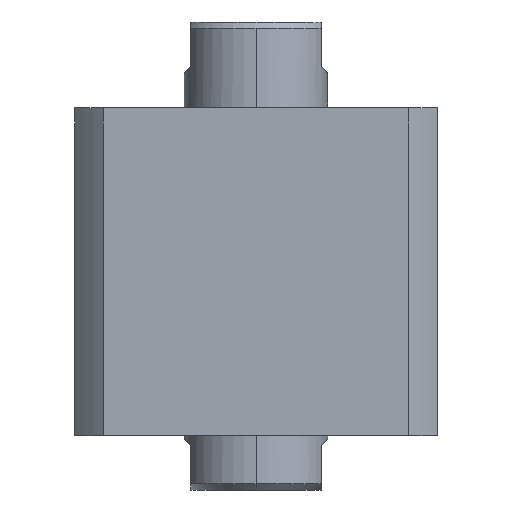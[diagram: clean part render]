
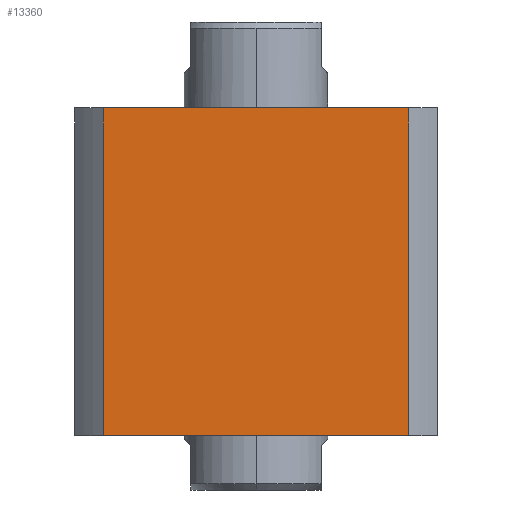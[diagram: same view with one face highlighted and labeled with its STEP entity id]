
A CAD part, front view. The second image highlights one B-rep face of the part: STEP entity #13360.
In plain terms, the highlighted planar face has unit normal (0, -1, 0) as drawn and (1, 0, 0) by its records, which use the part's own axes.
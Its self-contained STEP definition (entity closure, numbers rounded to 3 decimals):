
#131 = CARTESIAN_POINT ( 'NONE',  ( 57., -47.971, 103. ) ) ;
#184 = DIRECTION ( 'NONE',  ( -1., 0., 0. ) ) ;
#654 = VERTEX_POINT ( 'NONE', #13351 ) ;
#1324 = DIRECTION ( 'NONE',  ( 0., 0., 1. ) ) ;
#1765 = VERTEX_POINT ( 'NONE', #12242 ) ;
#3050 = LINE ( 'NONE', #11040, #15584 ) ;
#3356 = EDGE_CURVE ( 'NONE', #654, #15091, #14049, .T. ) ;
#3766 = DIRECTION ( 'NONE',  ( 0., 1., 0. ) ) ;
#4595 = ORIENTED_EDGE ( 'NONE', *, *, #7331, .F. ) ;
#5097 = LINE ( 'NONE', #14590, #11177 ) ;
#5522 = CARTESIAN_POINT ( 'NONE',  ( 57., 47.971, -197. ) ) ;
#6021 = FACE_OUTER_BOUND ( 'NONE', #13407, .T. ) ;
#6325 = CARTESIAN_POINT ( 'NONE',  ( 57., 47.971, 0. ) ) ;
#7331 = EDGE_CURVE ( 'NONE', #14480, #654, #3050, .T. ) ;
#7423 = CARTESIAN_POINT ( 'NONE',  ( 57., 57., 103. ) ) ;
#7474 = ORIENTED_EDGE ( 'NONE', *, *, #3356, .F. ) ;
#7513 = VECTOR ( 'NONE', #8401, 1000. ) ;
#7612 = ORIENTED_EDGE ( 'NONE', *, *, #8185, .F. ) ;
#7955 = VECTOR ( 'NONE', #15274, 1000. ) ;
#8185 = EDGE_CURVE ( 'NONE', #1765, #14480, #5097, .T. ) ;
#8401 = DIRECTION ( 'NONE',  ( 0., 1., 0. ) ) ;
#8647 = DIRECTION ( 'NONE',  ( 0., -1., 0. ) ) ;
#10146 = AXIS2_PLACEMENT_3D ( 'NONE', #7423, #184, #8647 ) ;
#10742 = CARTESIAN_POINT ( 'NONE',  ( 57., 57., 0. ) ) ;
#11040 = CARTESIAN_POINT ( 'NONE',  ( 57., 57., 103. ) ) ;
#11177 = VECTOR ( 'NONE', #1324, 1000. ) ;
#11949 = EDGE_CURVE ( 'NONE', #1765, #15091, #14016, .T. ) ;
#12242 = CARTESIAN_POINT ( 'NONE',  ( 57., -47.971, 0. ) ) ;
#12597 = ORIENTED_EDGE ( 'NONE', *, *, #11949, .T. ) ;
#13351 = CARTESIAN_POINT ( 'NONE',  ( 57., 47.971, 103. ) ) ;
#13360 = ADVANCED_FACE ( 'NONE', ( #6021 ), #13499, .F. ) ;
#13407 = EDGE_LOOP ( 'NONE', ( #7612, #12597, #7474, #4595 ) ) ;
#13499 = PLANE ( 'NONE',  #10146 ) ;
#14016 = LINE ( 'NONE', #10742, #7513 ) ;
#14049 = LINE ( 'NONE', #5522, #7955 ) ;
#14480 = VERTEX_POINT ( 'NONE', #131 ) ;
#14590 = CARTESIAN_POINT ( 'NONE',  ( 57., -47.971, -197. ) ) ;
#15091 = VERTEX_POINT ( 'NONE', #6325 ) ;
#15274 = DIRECTION ( 'NONE',  ( 0., 0., -1. ) ) ;
#15584 = VECTOR ( 'NONE', #3766, 1000. ) ;
